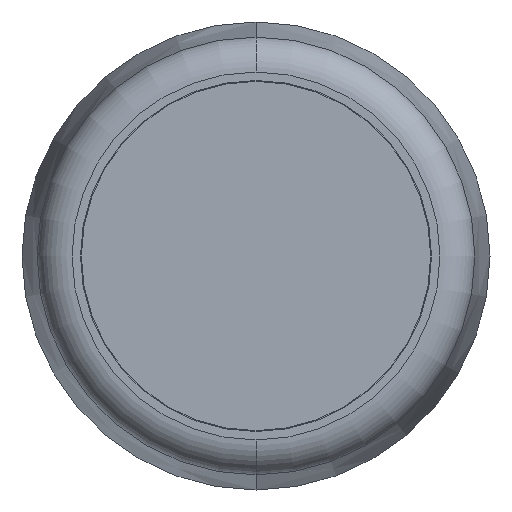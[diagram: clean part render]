
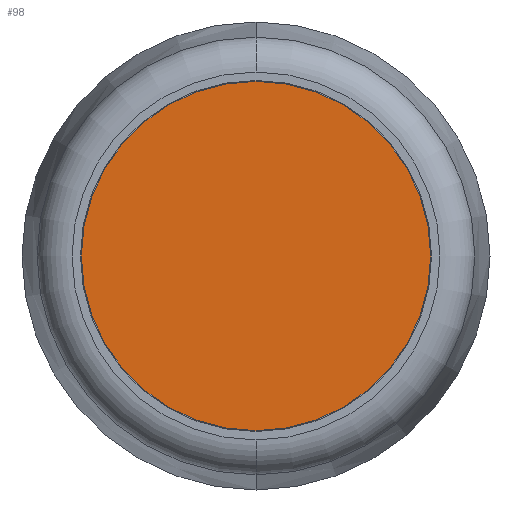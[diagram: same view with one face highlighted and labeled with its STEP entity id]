
A CAD part, front view. The second image highlights one B-rep face of the part: STEP entity #98.
In plain terms, the highlighted planar face has unit normal (0, -1, 0).
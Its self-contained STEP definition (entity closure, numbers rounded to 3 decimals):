
#98 = ADVANCED_FACE ( 'NONE', ( #4497 ), #4465, .F. ) ;
#350 = AXIS2_PLACEMENT_3D ( 'NONE', #1441, #1427, #1428 ) ;
#353 = CIRCLE ( 'NONE', #350, 3. ) ;
#374 = AXIS2_PLACEMENT_3D ( 'NONE', #1607, #1605, #1610 ) ;
#375 = CIRCLE ( 'NONE', #374, 3. ) ;
#1344 = CARTESIAN_POINT ( 'NONE',  ( 0., 0.2, 3. ) ) ;
#1381 = CARTESIAN_POINT ( 'NONE',  ( 0., 0.2, -3. ) ) ;
#1427 = DIRECTION ( 'NONE',  ( 0., 1., 0. ) ) ;
#1428 = DIRECTION ( 'NONE',  ( 0., 0., 1. ) ) ;
#1441 = CARTESIAN_POINT ( 'NONE',  ( 0., 0.2, 0. ) ) ;
#1605 = DIRECTION ( 'NONE',  ( 0., 1., 0. ) ) ;
#1607 = CARTESIAN_POINT ( 'NONE',  ( 0., 0.2, 0. ) ) ;
#1610 = DIRECTION ( 'NONE',  ( 0., 0., 1. ) ) ;
#2118 = AXIS2_PLACEMENT_3D ( 'NONE', #4463, #4470, #4467 ) ;
#4070 = ORIENTED_EDGE ( 'NONE', *, *, #4752, .F. ) ;
#4071 = ORIENTED_EDGE ( 'NONE', *, *, #4741, .F. ) ;
#4273 = VERTEX_POINT ( 'NONE', #1381 ) ;
#4274 = VERTEX_POINT ( 'NONE', #1344 ) ;
#4338 = EDGE_LOOP ( 'NONE', ( #4071, #4070 ) ) ;
#4463 = CARTESIAN_POINT ( 'NONE',  ( -3.068, 0.2, -10. ) ) ;
#4465 = PLANE ( 'NONE',  #2118 ) ;
#4467 = DIRECTION ( 'NONE',  ( 0., 0., 1. ) ) ;
#4470 = DIRECTION ( 'NONE',  ( 0., 1., 0. ) ) ;
#4497 = FACE_OUTER_BOUND ( 'NONE', #4338, .T. ) ;
#4741 = EDGE_CURVE ( 'NONE', #4274, #4273, #353, .T. ) ;
#4752 = EDGE_CURVE ( 'NONE', #4273, #4274, #375, .T. ) ;
